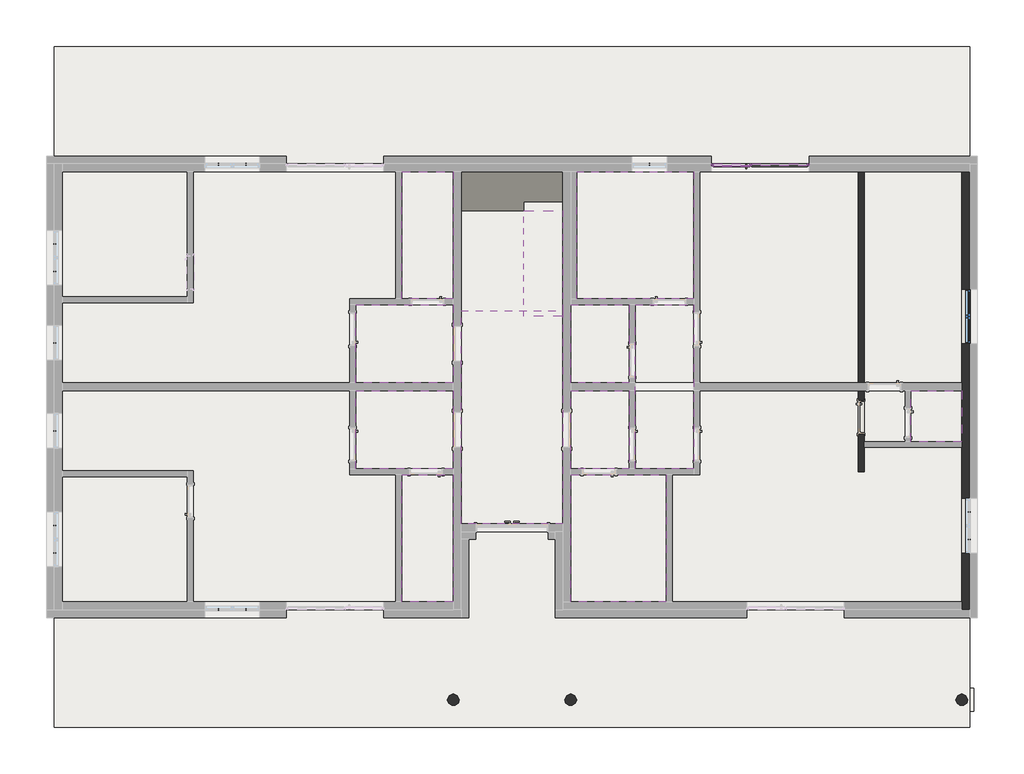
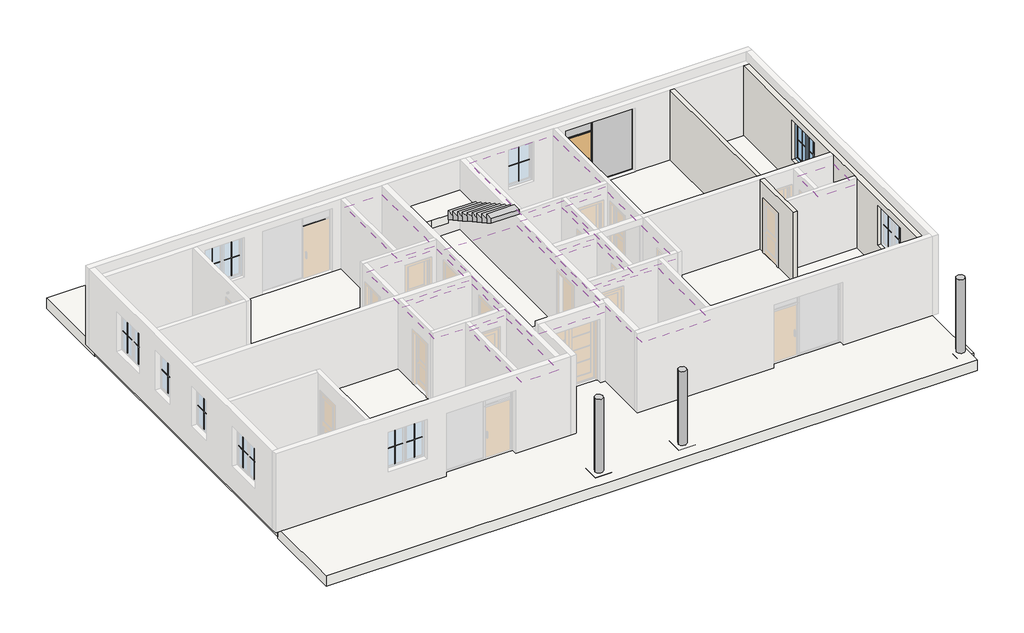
# One storey, part 3 of 3: 27 slabs, 15 proxies, 11 coverings, 10 members, 3 columns, 2 plates, 2 walls, 1 door, 2 other elements.
"""IFC4 building model written with IfcOpenShell, lengths in millimetres."""

import ifcopenshell
import ifcopenshell.guid

model = None  # the IFC model being written
_history = None  # IfcOwnerHistory: only IFC2X3 demands one
_inside = {}  # id of a spatial element -> (the spatial element, [elements in it])
_under = {}  # id of a project, library or spatial element -> (it, [spatial elements below it])
_declared = {}  # id of a project -> (the project, [libraries it declares])
_typed = {}  # id of a type object -> (the type object, [elements of that type])
_made_of = {}  # id of a material, layer set ... -> (it, [elements and type objects made of it])


def new_model(schema):
    """Start an empty IFC model of exactly this schema.

    Asked for "IFC4X3", IfcOpenShell would pick the latest addendum, in which some entities
    have other attributes; the version numbers below select the first issue.
    IFC2X3 requires an IfcOwnerHistory on every rooted entity: one is made here for all.
    """
    global model, _history
    if schema == "IFC4X3":
        model = ifcopenshell.file(schema_version=(4, 3, 0, 0))
    else:
        model = ifcopenshell.file(schema=schema)
    _inside.clear()
    _under.clear()
    _declared.clear()
    _typed.clear()
    _made_of.clear()
    _history = None
    if model.schema == "IFC2X3":
        org = make("IfcOrganization", Name="unknown")
        user = make(
            "IfcPersonAndOrganization",
            ThePerson=make("IfcPerson", FamilyName="unknown"),
            TheOrganization=org,
        )
        app = make(
            "IfcApplication",
            ApplicationDeveloper=org,
            Version="unknown",
            ApplicationFullName="unknown",
            ApplicationIdentifier="unknown",
        )
        _history = make(
            "IfcOwnerHistory",
            OwningUser=user,
            OwningApplication=app,
            ChangeAction="ADDED",
            CreationDate=0,
        )
    return model


def make(cls, **values):
    """One entity of the class cls with the attributes given. An attribute that is None is left unset."""
    return model.create_entity(
        cls, **{name: value for name, value in values.items() if value is not None}
    )


def rooted(cls, **values):
    """An entity with a GlobalId (a new one), such as an element, a storey or a relation."""
    return make(cls, GlobalId=ifcopenshell.guid.new(), OwnerHistory=_history, **values)


def si_unit(unit_type, name, prefix=None):
    """IfcSIUnit, for example si_unit("LENGTHUNIT", "METRE", prefix="MILLI")."""
    return make("IfcSIUnit", UnitType=unit_type, Prefix=prefix, Name=name)


def assignment(units):
    """IfcUnitAssignment: the units of a project."""
    return None if units is None else make("IfcUnitAssignment", Units=units)


def point(xyz):
    """IfcCartesianPoint."""
    return None if xyz is None else make("IfcCartesianPoint", Coordinates=xyz)


def direction(xyz):
    """IfcDirection."""
    return None if xyz is None else make("IfcDirection", DirectionRatios=xyz)


def frame(location, z_axis=None, x_axis=None):
    """IfcAxis2Placement3D, a coordinate frame: its origin and axes. An axis left out is left unset."""
    return make(
        "IfcAxis2Placement3D",
        Location=point(location),
        Axis=direction(z_axis),
        RefDirection=direction(x_axis),
    )


def frame_2d(location, x_axis=None):
    """IfcAxis2Placement2D, a coordinate frame in the plane: its origin and x axis."""
    return make(
        "IfcAxis2Placement2D", Location=point(location), RefDirection=direction(x_axis)
    )


def origin():
    """The frame at (0, 0, 0) with its axes left unset."""
    return frame((0.0, 0.0, 0.0))


def origin_with_axes():
    """The frame at (0, 0, 0) with the z axis (0, 0, 1) and the x axis (1, 0, 0) written out."""
    return frame((0.0, 0.0, 0.0), z_axis=(0.0, 0.0, 1.0), x_axis=(1.0, 0.0, 0.0))


def origin_2d():
    """The frame at (0, 0) in the plane with its x axis left unset."""
    return frame_2d((0.0, 0.0))


def place(relative_to, where):
    """IfcLocalPlacement: puts the frame where relative to a parent placement (None: the world)."""
    return make(
        "IfcLocalPlacement", PlacementRelTo=relative_to, RelativePlacement=where
    )


def context(
    kind, dimensions, precision=None, world=None, true_north=None, identifier=None
):
    """IfcGeometricRepresentationContext, for example the 3D "Model" context."""
    return make(
        "IfcGeometricRepresentationContext",
        ContextIdentifier=identifier,
        ContextType=kind,
        CoordinateSpaceDimension=dimensions,
        Precision=precision,
        WorldCoordinateSystem=world,
        TrueNorth=true_north,
    )


def project(units=None, contexts=None):
    """IfcProject with its units and contexts."""
    return rooted(
        "IfcProject",
        Name="project",
        RepresentationContexts=contexts,
        UnitsInContext=assignment(units),
    )


def spatial(cls, under=None, at=None, **own):
    """A site, building, storey or space (cls), placed at a placement, below another one or the project."""
    s = rooted(cls, ObjectPlacement=at, **own)
    if under is not None:
        _under.setdefault(under.id(), (under, []))[1].append(s)
    return s


def polyline(points):
    """IfcPolyline through the points."""
    return make("IfcPolyline", Points=[point(p) for p in points])


def circle_curve(where, radius):
    """IfcCircle in the frame where."""
    return make("IfcCircle", Position=where, Radius=radius)


def trimmed(basis, trim1, trim2, sense, master):
    """IfcTrimmedCurve: the piece of a basis curve between two trims."""
    return make(
        "IfcTrimmedCurve",
        BasisCurve=basis,
        Trim1=trim1,
        Trim2=trim2,
        SenseAgreement=sense,
        MasterRepresentation=master,
    )


def segment(curve, same_sense, transition):
    """IfcCompositeCurveSegment."""
    return make(
        "IfcCompositeCurveSegment",
        Transition=transition,
        SameSense=same_sense,
        ParentCurve=curve,
    )


def composite_curve(segments, self_intersect=None):
    """IfcCompositeCurve: segments joined end to end."""
    return make("IfcCompositeCurve", Segments=segments, SelfIntersect=self_intersect)


def outline(outer, holes=None, kind="AREA"):
    """IfcArbitraryClosedProfileDef: a profile drawn as a closed curve; with holes, ...WithVoids."""
    if holes is None:
        return make("IfcArbitraryClosedProfileDef", ProfileType=kind, OuterCurve=outer)
    return make(
        "IfcArbitraryProfileDefWithVoids",
        ProfileType=kind,
        OuterCurve=outer,
        InnerCurves=holes,
    )


def extrude(swept, where, along, depth):
    """IfcExtrudedAreaSolid: the profile swept, set in the frame where, extruded along a direction by depth."""
    return make(
        "IfcExtrudedAreaSolid",
        SweptArea=swept,
        Position=where,
        ExtrudedDirection=direction(along),
        Depth=depth,
    )


def faces_of(points, faces, orient=None, outer=None):
    """IfcFace entities. A face is a list of loops; a loop is a list of indices into points, from 0.

    orient and outer hold one flag for each loop. By default every Orientation is true, the
    first loop of a face is its IfcFaceOuterBound and the others are IfcFaceBound.
    """
    made = []
    for i, loops in enumerate(faces):
        bounds = []
        for j, loop in enumerate(loops):
            is_outer = j == 0 if outer is None else outer[i][j]
            bounds.append(
                make(
                    "IfcFaceOuterBound" if is_outer else "IfcFaceBound",
                    Bound=make("IfcPolyLoop", Polygon=[points[k] for k in loop]),
                    Orientation=True if orient is None else orient[i][j],
                )
            )
        made.append(make("IfcFace", Bounds=bounds))
    return made


def faceted_brep(points, faces, orient=None, outer=None, voids=None):
    """IfcFacetedBrep: a solid bounded by flat faces; with voids (closed shells), ...WithVoids."""
    shared = [point(p) for p in points]
    hull = make("IfcClosedShell", CfsFaces=faces_of(shared, faces, orient, outer))
    if voids is None:
        return make("IfcFacetedBrep", Outer=hull)
    return make(
        "IfcFacetedBrepWithVoids",
        Outer=hull,
        Voids=[
            make(cls, CfsFaces=faces_of(shared, fs, o, b)) for cls, fs, o, b in voids
        ],
    )


def shape(context_of_items, identifier, shape_type, items):
    """IfcShapeRepresentation: the items that make up one representation, for example the "Body"."""
    return make(
        "IfcShapeRepresentation",
        ContextOfItems=context_of_items,
        RepresentationIdentifier=identifier,
        RepresentationType=shape_type,
        Items=items,
    )


def source(mapping_origin, context_of_items, identifier, shape_type, items):
    """IfcRepresentationMap: a shape defined once, which mapped items show again and again."""
    return make(
        "IfcRepresentationMap",
        MappingOrigin=mapping_origin,
        MappedRepresentation=shape(context_of_items, identifier, shape_type, items),
    )


def transform(
    local_origin,
    x_axis=None,
    y_axis=None,
    z_axis=None,
    scale=None,
    scale2=None,
    scale3=None,
    uniform=True,
):
    """IfcCartesianTransformationOperator3D, or its non-uniform kind. x_axis, y_axis, z_axis: its Axis1, 2, 3."""
    if uniform:
        return make(
            "IfcCartesianTransformationOperator3D",
            Axis1=direction(x_axis),
            Axis2=direction(y_axis),
            LocalOrigin=point(local_origin),
            Scale=scale,
            Axis3=direction(z_axis),
        )
    return make(
        "IfcCartesianTransformationOperator3DnonUniform",
        Axis1=direction(x_axis),
        Axis2=direction(y_axis),
        LocalOrigin=point(local_origin),
        Scale=scale,
        Axis3=direction(z_axis),
        Scale2=scale2,
        Scale3=scale3,
    )


def mapped(mapping_source, mapping_target):
    """IfcMappedItem: shows the shape of a source again, moved by a transform."""
    return make(
        "IfcMappedItem", MappingSource=mapping_source, MappingTarget=mapping_target
    )


def made_of(thing, what):
    """Note that an element or type object is made of a material, layer set ...; save() writes the relation."""
    if what is not None:
        _made_of.setdefault(what.id(), (what, []))[1].append(thing)
    return thing


def element(
    cls,
    number,
    at=None,
    inside=None,
    cuts=None,
    type_object=None,
    material=None,
    context=None,
    identifier="Body",
    shape_type=None,
    held_by="IfcProductDefinitionShape",
    body=None,
    shapes=None,
    **own,
):
    """One element of the class cls, such as IfcWall. Its Tag is "e" and its number.

    at: its placement. inside: the storey or other place that contains it. cuts: it is an
    opening in that element (IfcRelVoidsElement). A single representation is given by context,
    identifier, shape_type and body (its items); several are given by shapes. held_by: the class
    of the entity that holds the representations. save() writes the other relations.
    """
    e = rooted(cls, Tag="e%d" % number, ObjectPlacement=at, **own)
    if body is not None:
        shapes = [shape(context, identifier, shape_type, body)]
    if shapes is not None:
        e.Representation = make(held_by, Representations=shapes)
    if inside is not None:
        _inside.setdefault(inside.id(), (inside, []))[1].append(e)
    if cuts is not None:
        rooted(
            "IfcRelVoidsElement", RelatingBuildingElement=cuts, RelatedOpeningElement=e
        )
    if type_object is not None:
        _typed.setdefault(type_object.id(), (type_object, []))[1].append(e)
    return made_of(e, material)


def aggregate(whole, parts):
    """IfcRelAggregates: a whole, such as a stair, and the parts it consists of."""
    return rooted("IfcRelAggregates", RelatingObject=whole, RelatedObjects=parts)


def save(model, path):
    """Write the relations noted so far, then the file.

    IfcRelAggregates (storeys below a building ...), IfcRelContainedInSpatialStructure (elements
    in a storey), IfcRelDefinesByType, IfcRelAssociatesMaterial and IfcRelDeclares: one each for
    every whole, place, type object, material and project.
    """
    for whole, parts in _under.values():
        aggregate(whole, parts)
    for where, things in _inside.values():
        rooted(
            "IfcRelContainedInSpatialStructure",
            RelatedElements=things,
            RelatingStructure=where,
        )
    for kind, things in _typed.values():
        rooted("IfcRelDefinesByType", RelatedObjects=things, RelatingType=kind)
    for what, things in _made_of.values():
        rooted("IfcRelAssociatesMaterial", RelatedObjects=things, RelatingMaterial=what)
    for by, libraries in _declared.values():
        rooted("IfcRelDeclares", RelatingContext=by, RelatedDefinitions=libraries)
    model.write(path)


def generic_models_71f8651e(model_context):
    return source(origin(), model_context, "Body", "SweptSolid", [
        extrude(outline(polyline([(686.5, -6.35), (686.5, -281.7375), (673.8, -281.7375), (673.8, -6.35), (0.0, -6.35), (0.0, 6.35), (673.8, 6.35), (673.8, 281.7375), (686.5, 281.7375), (686.5, 6.35), (1360.3, 6.35), (1360.3, -6.35), (686.5, -6.35)])), frame((0.0, 9.525, 0.0), z_axis=(0.0, 1.0, 0.0), x_axis=(0.0, 0.0, 1.0)), (0.0, 0.0, 1.0), 12.7),
        extrude(outline(polyline([(686.5, -6.35), (686.5, -281.7375), (673.8, -281.7375), (673.8, -6.35), (0.0, -6.35), (0.0, 6.35), (673.8, 6.35), (673.8, 281.7375), (686.5, 281.7375), (686.5, 6.35), (1360.3, 6.35), (1360.3, -6.35), (686.5, -6.35)])), frame((0.0, -22.225, 0.0), z_axis=(0.0, 1.0, 0.0), x_axis=(0.0, 0.0, 1.0)), (0.0, 0.0, 1.0), 12.7),
    ])


def generic_models_53b518fb(model_context):
    return source(origin(), model_context, "Body", "SweptSolid", [
        extrude(outline(polyline([(686.5, -6.35), (686.5, -281.7375), (673.8, -281.7375), (673.8, -6.35), (0.0, -6.35), (0.0, 6.35), (673.8, 6.35), (673.8, 281.7375), (686.5, 281.7375), (686.5, 6.35), (1360.3, 6.35), (1360.3, -6.35), (686.5, -6.35)])), frame((0.0, -22.225, 0.0), z_axis=(0.0, 1.0, 0.0), x_axis=(0.0, 0.0, 1.0)), (0.0, 0.0, 1.0), 12.7),
        extrude(outline(polyline([(686.5, -6.35), (686.5, -281.7375), (673.8, -281.7375), (673.8, -6.35), (0.0, -6.35), (0.0, 6.35), (673.8, 6.35), (673.8, 281.7375), (686.5, 281.7375), (686.5, 6.35), (1360.3, 6.35), (1360.3, -6.35), (686.5, -6.35)])), frame((0.0, 9.525, 0.0), z_axis=(0.0, 1.0, 0.0), x_axis=(0.0, 0.0, 1.0)), (0.0, 0.0, 1.0), 12.7),
    ])


def generic_models_afe3c14d(model_context):
    return source(origin(), model_context, "Body", "SweptSolid", [
        extrude(outline(polyline([(686.5, -6.35), (686.5, -380.15), (673.8, -380.15), (673.8, -6.35), (0.0, -6.35), (0.0, 6.35), (673.8, 6.35), (673.8, 380.15), (686.5, 380.15), (686.5, 6.35), (1360.3, 6.35), (1360.3, -6.35), (686.5, -6.35)])), frame((0.0, -22.225, 0.0), z_axis=(0.0, 1.0, 0.0), x_axis=(0.0, 0.0, 1.0)), (0.0, 0.0, 1.0), 12.7),
        extrude(outline(polyline([(686.5, -6.35), (686.5, -380.15), (673.8, -380.15), (673.8, -6.35), (0.0, -6.35), (0.0, 6.35), (673.8, 6.35), (673.8, 380.15), (686.5, 380.15), (686.5, 6.35), (1360.3, 6.35), (1360.3, -6.35), (686.5, -6.35)])), frame((0.0, 9.525, 0.0), z_axis=(0.0, 1.0, 0.0), x_axis=(0.0, 0.0, 1.0)), (0.0, 0.0, 1.0), 12.7),
    ])


def generic_models_a6b4e963(model_context):
    return source(origin(), model_context, "Body", "SweptSolid", [
        extrude(outline(polyline([(686.5, -6.35), (686.5, -380.15), (673.8, -380.15), (673.8, -6.35), (0.0, -6.35), (0.0, 6.35), (673.8, 6.35), (673.8, 380.15), (686.5, 380.15), (686.5, 6.35), (1360.3, 6.35), (1360.3, -6.35), (686.5, -6.35)])), frame((0.0, 9.525, 0.0), z_axis=(0.0, 1.0, 0.0), x_axis=(0.0, 0.0, 1.0)), (0.0, 0.0, 1.0), 12.7),
        extrude(outline(polyline([(686.5, -6.35), (686.5, -380.15), (673.8, -380.15), (673.8, -6.35), (0.0, -6.35), (0.0, 6.35), (673.8, 6.35), (673.8, 380.15), (686.5, 380.15), (686.5, 6.35), (1360.3, 6.35), (1360.3, -6.35), (686.5, -6.35)])), frame((0.0, -22.225, 0.0), z_axis=(0.0, 1.0, 0.0), x_axis=(0.0, 0.0, 1.0)), (0.0, 0.0, 1.0), 12.7),
    ])


def column_300mm_4ed90d00(model_context):
    return source(origin(), model_context, "Body", "SweptSolid", [
        extrude(outline(composite_curve([segment(trimmed(circle_curve(origin_2d(), 150.0), [point((-150.0, 0.0))], [point((150.0, 0.0))], False, "CARTESIAN"), True, "CONTINUOUS"), segment(trimmed(circle_curve(origin_2d(), 150.0), [point((150.0, 0.0))], [point((-150.0, 0.0))], False, "CARTESIAN"), True, "CONTINUOUS")], self_intersect=False)), origin_with_axes(), (0.0, 0.0, 1.0), 2800.0),
    ])


def door_21d3b074(model_context):
    return source(origin(), model_context, "Body", "SweptSolid", [
        extrude(outline(polyline([(462.5, 50.8), (462.5, 38.1), (-462.5, 38.1), (-462.5, 50.8), (462.5, 50.8)])), origin_with_axes(), (0.0, 0.0, 1.0), 1975.0),
        extrude(outline(polyline([(-386.3, 101.6), (-360.9, 101.6), (-360.9, 50.8), (-386.3, 50.8), (-386.3, 101.6)])), frame((0.0, 0.0, 762.0), z_axis=(0.0, 0.0, 1.0), x_axis=(1.0, 0.0, 0.0)), (0.0, 0.0, 1.0), 228.6),
        extrude(outline(polyline([(-360.9, -12.7), (-386.3, -12.7), (-386.3, 38.1), (-360.9, 38.1), (-360.9, -12.7)])), frame((0.0, 0.0, 762.0), z_axis=(0.0, 0.0, 1.0), x_axis=(1.0, 0.0, 0.0)), (0.0, 0.0, 1.0), 228.6),
    ])


def member_50x50_mm_0b25df5f(model_context):
    return source(origin(), model_context, "Body", "SweptSolid", [
        extrude(outline(polyline([(0.0, 25.0), (0.0, -25.0), (-50.0, -25.0), (-50.0, 25.0), (0.0, 25.0)])), frame((0.0, 0.0, -1425.0), z_axis=(0.0, 0.0, 1.0), x_axis=(1.0, 0.0, 0.0)), (0.0, 0.0, 1.0), 1425.0),
    ])


def member_50x50_mm_3bf2a5da(model_context):
    return source(origin(), model_context, "Body", "SweptSolid", [
        extrude(outline(polyline([(25.0, 25.0), (25.0, -25.0), (-25.0, -25.0), (-25.0, 25.0), (25.0, 25.0)])), frame((0.0, 0.0, -2000.0), z_axis=(0.0, 0.0, 1.0), x_axis=(1.0, 0.0, 0.0)), (0.0, 0.0, 1.0), 2000.0),
    ])


def member_50x50_mm_d57dae31(model_context):
    return source(origin(), model_context, "Body", "SweptSolid", [
        extrude(outline(polyline([(25.0, 25.0), (25.0, -25.0), (-25.0, -25.0), (-25.0, 25.0), (25.0, 25.0)])), frame((0.0, 0.0, -925.0), z_axis=(0.0, 0.0, 1.0), x_axis=(1.0, 0.0, 0.0)), (0.0, 0.0, 1.0), 925.0),
    ])


def member_50x50_mm_7f53e2b4(model_context):
    return source(origin(), model_context, "Body", "SweptSolid", [
        extrude(outline(polyline([(0.0, 25.0), (0.0, -25.0), (-50.0, -25.0), (-50.0, 25.0), (0.0, 25.0)])), frame((0.0, 0.0, -925.0), z_axis=(0.0, 0.0, 1.0), x_axis=(1.0, 0.0, 0.0)), (0.0, 0.0, 1.0), 925.0),
    ])


def member_50x50_mm_58209b6d(model_context):
    return source(origin(), model_context, "Body", "SweptSolid", [
        extrude(outline(polyline([(25.0, 25.0), (25.0, -25.0), (-25.0, -25.0), (-25.0, 25.0), (25.0, 25.0)])), frame((0.0, 0.0, -400.0), z_axis=(0.0, 0.0, 1.0), x_axis=(1.0, 0.0, 0.0)), (0.0, 0.0, 1.0), 400.0),
    ])


def member_50x50_mm_0f4eb3cd(model_context):
    return source(origin(), model_context, "Body", "SweptSolid", [
        extrude(outline(polyline([(0.0, 25.0), (0.0, -25.0), (-50.0, -25.0), (-50.0, 25.0), (0.0, 25.0)])), frame((0.0, 0.0, -400.0), z_axis=(0.0, 0.0, 1.0), x_axis=(1.0, 0.0, 0.0)), (0.0, 0.0, 1.0), 400.0),
    ])


def member_50x50_mm_521fa47b(model_context):
    return source(origin(), model_context, "Body", "SweptSolid", [
        extrude(outline(polyline([(0.0, 25.0), (0.0, -25.0), (-50.0, -25.0), (-50.0, 25.0), (0.0, 25.0)])), frame((0.0, 0.0, -2000.0), z_axis=(0.0, 0.0, 1.0), x_axis=(1.0, 0.0, 0.0)), (0.0, 0.0, 1.0), 2000.0),
    ])


def plate_9c89f185(model_context):
    return source(origin(), model_context, "Body", "SweptSolid", [
        extrude(outline(polyline([(0.0, -712.5), (0.0, 712.5), (1950.0, 712.5), (2300.0, 712.5), (2300.0, -712.5), (1950.0, -712.5), (0.0, -712.5)])), frame((0.0, -49.5, 0.0), z_axis=(0.0, 1.0, 0.0), x_axis=(0.0, 0.0, 1.0)), (0.0, 0.0, 1.0), 25.0),
    ])


def plate_e159d5d1(model_context):
    return source(origin(), model_context, "Body", "SweptSolid", [
        extrude(outline(polyline([(462.5, -49.5), (-462.5, -49.5), (-462.5, -24.5), (462.5, -24.5), (462.5, -49.5)])), origin_with_axes(), (0.0, 0.0, 1.0), 325.0),
    ])


def slab_600x600x600_mm_9cc2939c(model_context):
    return source(origin(), model_context, "Body", "SweptSolid", [
        extrude(outline(polyline([(300.0, 300.0), (300.0, -300.0), (-300.0, -300.0), (-300.0, 300.0), (300.0, 300.0)])), frame((0.0, 0.0, -600.0), z_axis=(0.0, 0.0, 1.0), x_axis=(1.0, 0.0, 0.0)), (0.0, 0.0, 1.0), 600.0),
    ])


def window_1400_x_1500mm_e7e683e0(model_context):
    return source(origin(), model_context, "Body", "SolidModel", [
        faceted_brep([(668.25, -68.25, 2368.25), (-668.25, -68.25, 2368.25), (-668.25, -4.75, 2368.25), (668.25, -4.75, 2368.25), (687.3, -119.05, 2387.3), (-687.3, -119.05, 2387.3), (-687.3, -68.25, 2387.3), (687.3, -68.25, 2387.3), (700.0, -4.75, 2400.0), (-700.0, -4.75, 2400.0), (-700.0, -119.05, 2400.0), (700.0, -119.05, 2400.0), (-668.25, -68.25, 931.75), (-668.25, -4.75, 931.75), (-687.3, -119.05, 912.7), (-687.3, -68.25, 912.7), (-700.0, -4.75, 900.0), (-700.0, -119.05, 900.0), (668.25, -68.25, 931.75), (668.25, -4.75, 931.75), (687.3, -119.05, 912.7), (687.3, -68.25, 912.7), (700.0, -4.75, 900.0), (700.0, -119.05, 900.0)], [[[0, 1, 2, 3]], [[4, 5, 6, 7]], [[8, 9, 10, 11]], [[1, 12, 13, 2]], [[5, 14, 15, 6]], [[9, 16, 17, 10]], [[12, 18, 19, 13]], [[14, 20, 21, 15]], [[16, 22, 23, 17]], [[9, 8, 22, 16], [3, 2, 13, 19]], [[18, 0, 3, 19]], [[7, 6, 15, 21], [1, 0, 18, 12]], [[20, 4, 7, 21]], [[22, 8, 11, 23]], [[11, 10, 17, 23], [5, 4, 20, 14]]]),
        extrude(outline(polyline([(912.7, 9.525), (912.7, 687.3), (2387.3, 687.3), (2387.3, 9.525), (912.7, 9.525)]), holes=[polyline([(969.85, 630.15), (969.85, 66.675), (2330.15, 66.675), (2330.15, 630.15), (969.85, 630.15)])]), frame((0.0, -112.7, 0.0), z_axis=(0.0, 1.0, 0.0), x_axis=(0.0, 0.0, 1.0)), (0.0, 0.0, 1.0), 44.45),
        extrude(outline(polyline([(2387.3, -9.525), (2387.3, -687.3), (912.7, -687.3), (912.7, -9.525), (2387.3, -9.525)]), holes=[polyline([(2330.15, -630.15), (2330.15, -66.675), (969.85, -66.675), (969.85, -630.15), (2330.15, -630.15)])]), frame((0.0, -112.7, 0.0), z_axis=(0.0, 1.0, 0.0), x_axis=(0.0, 0.0, 1.0)), (0.0, 0.0, 1.0), 44.45),
        extrude(outline(polyline([(630.15, -100.0), (66.675, -100.0), (66.675, -93.65), (630.15, -93.65), (630.15, -100.0)])), frame((0.0, 0.0, 969.85), z_axis=(0.0, 0.0, 1.0), x_axis=(1.0, 0.0, 0.0)), (0.0, 0.0, 1.0), 1360.3),
        extrude(outline(polyline([(66.675, -80.95), (630.15, -80.95), (630.15, -87.3), (66.675, -87.3), (66.675, -80.95)])), frame((0.0, 0.0, 969.85), z_axis=(0.0, 0.0, 1.0), x_axis=(1.0, 0.0, 0.0)), (0.0, 0.0, 1.0), 1360.3),
        extrude(outline(polyline([(-66.675, -100.0), (-630.15, -100.0), (-630.15, -93.65), (-66.675, -93.65), (-66.675, -100.0)])), frame((0.0, 0.0, 969.85), z_axis=(0.0, 0.0, 1.0), x_axis=(1.0, 0.0, 0.0)), (0.0, 0.0, 1.0), 1360.3),
        extrude(outline(polyline([(-630.15, -80.95), (-66.675, -80.95), (-66.675, -87.3), (-630.15, -87.3), (-630.15, -80.95)])), frame((0.0, 0.0, 969.85), z_axis=(0.0, 0.0, 1.0), x_axis=(1.0, 0.0, 0.0)), (0.0, 0.0, 1.0), 1360.3),
        faceted_brep([(9.525, -119.05, 2387.3), (9.525, -68.25, 2387.3), (-9.525, -68.25, 2387.3), (-9.525, -119.05, 2387.3), (9.525, -119.05, 912.7), (-9.525, -119.05, 912.7), (-9.525, -68.25, 912.7), (9.525, -68.25, 912.7), (-9.525, -68.25, 2368.25), (-9.525, -68.25, 931.75), (-30.1625, -68.25, 2368.25), (-30.1625, -68.25, 931.75), (-30.1625, -4.75, 2368.25), (-30.1625, -4.75, 931.75), (30.1625, -4.75, 2368.25), (30.1625, -4.75, 931.75), (30.1625, -68.25, 2368.25), (30.1625, -68.25, 931.75), (9.525, -68.25, 2368.25), (9.525, -68.25, 931.75)], [[[0, 1, 2, 3]], [[4, 5, 6, 7]], [[3, 5, 4, 0]], [[2, 8, 9, 6, 5, 3]], [[8, 10, 11, 9]], [[10, 12, 13, 11]], [[12, 14, 15, 13]], [[14, 16, 17, 15]], [[16, 18, 19, 17]], [[0, 4, 7, 19, 18, 1]], [[8, 2, 1, 18]], [[19, 7, 6, 9]], [[9, 11, 13, 15, 17, 19]], [[18, 16, 14, 12, 10, 8]]]),
    ])


model = new_model("IFC4")

# Units and contexts
model_context = context("Model", 3, world=origin())
ifc_project = project(units=[si_unit("LENGTHUNIT", "METRE", prefix="MILLI")], contexts=[model_context])

# Site, building, storey
site = spatial("IfcSite", under=ifc_project)
building = spatial("IfcBuilding", under=site)
storey = spatial("IfcBuildingStorey", under=building, Name="Podlaží 1", Elevation=0.0)

# Proxies
placement = place(None, origin())
generic_models_shape = generic_models_71f8651e(model_context)
element("IfcBuildingElementProxy", 1, Name="M_Vzor mezilehlého svislého vlysu_2x2 : M_Vzor mezilehlého svislého vlysu_2x2", ObjectType="M_Vzor mezilehlého svislého vlysu_2x2 : M_Vzor mezilehlého svislého vlysu_2x2", at=placement, inside=storey, context=model_context, shape_type="MappedRepresentation", body=[
    mapped(generic_models_shape, transform((4698.4125, 2309.525, 969.85), x_axis=(-1.0, 0.0, 0.0), y_axis=(0.0, -1.0, 0.0), z_axis=(0.0, 0.0, 1.0))),
])
element("IfcBuildingElementProxy", 2, Name="M_Vzor mezilehlého svislého vlysu_2x2 : M_Vzor mezilehlého svislého vlysu_2x2", ObjectType="M_Vzor mezilehlého svislého vlysu_2x2 : M_Vzor mezilehlého svislého vlysu_2x2", at=placement, inside=storey, context=model_context, shape_type="MappedRepresentation", body=[
    mapped(generic_models_shape, transform((-190.475, 3751.5875, 969.85), x_axis=(0.0, 1.0, 0.0), y_axis=(-1.0, 0.0, 0.0), z_axis=(0.0, 0.0, 1.0))),
])
element("IfcBuildingElementProxy", 3, Name="M_Vzor mezilehlého svislého vlysu_2x2 : M_Vzor mezilehlého svislého vlysu_2x2", ObjectType="M_Vzor mezilehlého svislého vlysu_2x2 : M_Vzor mezilehlého svislého vlysu_2x2", at=placement, inside=storey, context=model_context, shape_type="MappedRepresentation", body=[
    mapped(generic_models_shape, transform((-190.475, 10951.5875, 969.85), x_axis=(0.0, 1.0, 0.0), y_axis=(-1.0, 0.0, 0.0), z_axis=(0.0, 0.0, 1.0))),
])
element("IfcBuildingElementProxy", 4, Name="M_Vzor mezilehlého svislého vlysu_2x2 : M_Vzor mezilehlého svislého vlysu_2x2", ObjectType="M_Vzor mezilehlého svislého vlysu_2x2 : M_Vzor mezilehlého svislého vlysu_2x2", at=placement, inside=storey, context=model_context, shape_type="MappedRepresentation", body=[
    mapped(generic_models_shape, transform((4001.5875, 13690.475, 969.85), x_axis=(1.0, 0.0, 0.0), y_axis=(0.0, 1.0, 0.0), z_axis=(0.0, 0.0, 1.0))),
])
element("IfcBuildingElementProxy", 5, Name="M_Vzor mezilehlého svislého vlysu_2x2 : M_Vzor mezilehlého svislého vlysu_2x2", ObjectType="M_Vzor mezilehlého svislého vlysu_2x2 : M_Vzor mezilehlého svislého vlysu_2x2", at=placement, inside=storey, context=model_context, shape_type="MappedRepresentation", body=[
    mapped(generic_models_shape, transform((23190.475, 10148.4125, 969.85), x_axis=(0.0, -1.0, 0.0), y_axis=(1.0, 0.0, 0.0), z_axis=(0.0, 0.0, 1.0))),
])
element("IfcBuildingElementProxy", 6, Name="M_Vzor mezilehlého svislého vlysu_2x2 : M_Vzor mezilehlého svislého vlysu_2x2", ObjectType="M_Vzor mezilehlého svislého vlysu_2x2 : M_Vzor mezilehlého svislého vlysu_2x2", at=placement, inside=storey, context=model_context, shape_type="MappedRepresentation", body=[
    mapped(generic_models_shape, transform((23190.475, 4798.4125, 969.85), x_axis=(0.0, -1.0, 0.0), y_axis=(1.0, 0.0, 0.0), z_axis=(0.0, 0.0, 1.0))),
])
generic_models_2_shape = generic_models_53b518fb(model_context)
element("IfcBuildingElementProxy", 7, Name="M_Vzor mezilehlého svislého vlysu_2x2 : M_Vzor mezilehlého svislého vlysu_2x2", ObjectType="M_Vzor mezilehlého svislého vlysu_2x2 : M_Vzor mezilehlého svislého vlysu_2x2", at=placement, inside=storey, context=model_context, shape_type="MappedRepresentation", body=[
    mapped(generic_models_2_shape, transform((4001.5875, 2309.525, 969.85), x_axis=(1.0, 0.0, 0.0), y_axis=(0.0, 1.0, 0.0), z_axis=(0.0, 0.0, 1.0))),
])
element("IfcBuildingElementProxy", 8, Name="M_Vzor mezilehlého svislého vlysu_2x2 : M_Vzor mezilehlého svislého vlysu_2x2", ObjectType="M_Vzor mezilehlého svislého vlysu_2x2 : M_Vzor mezilehlého svislého vlysu_2x2", at=placement, inside=storey, context=model_context, shape_type="MappedRepresentation", body=[
    mapped(generic_models_2_shape, transform((-190.475, 4448.4125, 969.85), x_axis=(0.0, -1.0, 0.0), y_axis=(1.0, 0.0, 0.0), z_axis=(0.0, 0.0, 1.0))),
])
element("IfcBuildingElementProxy", 9, Name="M_Vzor mezilehlého svislého vlysu_2x2 : M_Vzor mezilehlého svislého vlysu_2x2", ObjectType="M_Vzor mezilehlého svislého vlysu_2x2 : M_Vzor mezilehlého svislého vlysu_2x2", at=placement, inside=storey, context=model_context, shape_type="MappedRepresentation", body=[
    mapped(generic_models_2_shape, transform((-190.475, 11648.4125, 969.85), x_axis=(0.0, -1.0, 0.0), y_axis=(1.0, 0.0, 0.0), z_axis=(0.0, 0.0, 1.0))),
])
element("IfcBuildingElementProxy", 10, Name="M_Vzor mezilehlého svislého vlysu_2x2 : M_Vzor mezilehlého svislého vlysu_2x2", ObjectType="M_Vzor mezilehlého svislého vlysu_2x2 : M_Vzor mezilehlého svislého vlysu_2x2", at=placement, inside=storey, context=model_context, shape_type="MappedRepresentation", body=[
    mapped(generic_models_2_shape, transform((4698.4125, 13690.475, 969.85), x_axis=(-1.0, 0.0, 0.0), y_axis=(0.0, -1.0, 0.0), z_axis=(0.0, 0.0, 1.0))),
])
element("IfcBuildingElementProxy", 11, Name="M_Vzor mezilehlého svislého vlysu_2x2 : M_Vzor mezilehlého svislého vlysu_2x2", ObjectType="M_Vzor mezilehlého svislého vlysu_2x2 : M_Vzor mezilehlého svislého vlysu_2x2", at=placement, inside=storey, context=model_context, shape_type="MappedRepresentation", body=[
    mapped(generic_models_2_shape, transform((23190.475, 9451.5875, 969.85), x_axis=(0.0, 1.0, 0.0), y_axis=(-1.0, 0.0, 0.0), z_axis=(0.0, 0.0, 1.0))),
])
element("IfcBuildingElementProxy", 12, Name="M_Vzor mezilehlého svislého vlysu_2x2 : M_Vzor mezilehlého svislého vlysu_2x2", ObjectType="M_Vzor mezilehlého svislého vlysu_2x2 : M_Vzor mezilehlého svislého vlysu_2x2", at=placement, inside=storey, context=model_context, shape_type="MappedRepresentation", body=[
    mapped(generic_models_2_shape, transform((23190.475, 4101.5875, 969.85), x_axis=(0.0, 1.0, 0.0), y_axis=(-1.0, 0.0, 0.0), z_axis=(0.0, 0.0, 1.0))),
])
generic_models_3_shape = generic_models_afe3c14d(model_context)
element("IfcBuildingElementProxy", 13, Name="M_Vzor mezilehlého svislého vlysu_2x2 : M_Vzor mezilehlého svislého vlysu_2x2", ObjectType="M_Vzor mezilehlého svislého vlysu_2x2 : M_Vzor mezilehlého svislého vlysu_2x2", at=placement, inside=storey, context=model_context, shape_type="MappedRepresentation", body=[
    mapped(generic_models_3_shape, transform((-190.475, 6875.0, 969.85), x_axis=(0.0, -1.0, 0.0), y_axis=(1.0, 0.0, 0.0), z_axis=(0.0, 0.0, 1.0))),
])
element("IfcBuildingElementProxy", 14, Name="M_Vzor mezilehlého svislého vlysu_2x2 : M_Vzor mezilehlého svislého vlysu_2x2", ObjectType="M_Vzor mezilehlého svislého vlysu_2x2 : M_Vzor mezilehlého svislého vlysu_2x2", at=placement, inside=storey, context=model_context, shape_type="MappedRepresentation", body=[
    mapped(generic_models_3_shape, transform((-190.475, 9125.0, 969.85), x_axis=(0.0, -1.0, 0.0), y_axis=(1.0, 0.0, 0.0), z_axis=(0.0, 0.0, 1.0))),
])
generic_models_4_shape = generic_models_a6b4e963(model_context)
element("IfcBuildingElementProxy", 15, Name="M_Vzor mezilehlého svislého vlysu_2x2 : M_Vzor mezilehlého svislého vlysu_2x2", ObjectType="M_Vzor mezilehlého svislého vlysu_2x2 : M_Vzor mezilehlého svislého vlysu_2x2", at=placement, inside=storey, context=model_context, shape_type="MappedRepresentation", body=[
    mapped(generic_models_4_shape, transform((15015.0, 13690.475, 969.85), x_axis=(1.0, 0.0, 0.0), y_axis=(0.0, 1.0, 0.0), z_axis=(0.0, 0.0, 1.0))),
])

# Columns
column_300mm_shape = column_300mm_4ed90d00(model_context)
element("IfcColumn", 16, ObjectType="M_Betonový kulatý sloup : 300mm", at=placement, inside=storey, context=model_context, shape_type="MappedRepresentation", body=[
    mapped(column_300mm_shape, transform((23000.0, 0.0, 0.0), x_axis=(1.0, 0.0, 0.0), y_axis=(0.0, 1.0, 0.0), z_axis=(0.0, 0.0, 1.0))),
])
element("IfcColumn", 17, ObjectType="M_Betonový kulatý sloup : 300mm", at=placement, inside=storey, context=model_context, shape_type="MappedRepresentation", body=[
    mapped(column_300mm_shape, transform((13000.0, 0.0, 0.0), x_axis=(1.0, 0.0, 0.0), y_axis=(0.0, 1.0, 0.0), z_axis=(0.0, 0.0, 1.0))),
])
element("IfcColumn", 18, ObjectType="M_Betonový kulatý sloup : 300mm", at=placement, inside=storey, context=model_context, shape_type="MappedRepresentation", body=[
    mapped(column_300mm_shape, transform((10000.0, 0.0, 0.0), x_axis=(1.0, 0.0, 0.0), y_axis=(0.0, 1.0, 0.0), z_axis=(0.0, 0.0, 1.0))),
])

# Coverings
element("IfcCovering", 19, ObjectType="Mřížka 600 x 600mm", at=placement, inside=storey, context=model_context, shape_type="SweptSolid", body=[
    extrude(outline(polyline([(8675.0, 13500.0), (10000.0, 13500.0), (10000.0, 10250.0), (8675.0, 10250.0), (8675.0, 13500.0)])), frame((0.0, 0.0, 2300.0), z_axis=(0.0, 0.0, 1.0), x_axis=(1.0, 0.0, 0.0)), (0.0, 0.0, 1.0), 52.0),
])
element("IfcCovering", 20, ObjectType="Mřížka 600 x 600mm", at=placement, inside=storey, context=model_context, shape_type="SweptSolid", body=[
    extrude(outline(polyline([(7500.0, 10100.0), (10000.0, 10100.0), (10000.0, 8100.0), (7500.0, 8100.0), (7500.0, 10100.0)])), frame((0.0, 0.0, 2300.0), z_axis=(0.0, 0.0, 1.0), x_axis=(1.0, 0.0, 0.0)), (0.0, 0.0, 1.0), 52.0),
])
element("IfcCovering", 21, ObjectType="Mřížka 600 x 600mm", at=placement, inside=storey, context=model_context, shape_type="SweptSolid", body=[
    extrude(outline(polyline([(10000.0, 7900.0), (10000.0, 5900.0), (7500.0, 5900.0), (7500.0, 7900.0), (10000.0, 7900.0)])), frame((0.0, 0.0, 2300.0), z_axis=(0.0, 0.0, 1.0), x_axis=(1.0, 0.0, 0.0)), (0.0, 0.0, 1.0), 52.0),
])
element("IfcCovering", 22, ObjectType="Mřížka 600 x 600mm", at=placement, inside=storey, context=model_context, shape_type="SweptSolid", body=[
    extrude(outline(polyline([(8675.0, 5750.0), (10000.0, 5750.0), (10000.0, 2500.0), (8675.0, 2500.0), (8675.0, 5750.0)])), frame((0.0, 0.0, 2300.0), z_axis=(0.0, 0.0, 1.0), x_axis=(1.0, 0.0, 0.0)), (0.0, 0.0, 1.0), 52.0),
])
element("IfcCovering", 23, ObjectType="SDK podhled plný", at=placement, inside=storey, context=model_context, shape_type="SweptSolid", body=[
    extrude(outline(polyline([(13150.0, 13500.0), (16150.0, 13500.0), (16150.0, 10250.0), (13150.0, 10250.0), (13150.0, 13500.0)])), frame((0.0, 0.0, 2400.0), z_axis=(0.0, 0.0, 1.0), x_axis=(1.0, 0.0, 0.0)), (0.0, 0.0, 1.0), 66.5),
])
element("IfcCovering", 24, ObjectType="Mřížka 600 x 600mm", at=placement, inside=storey, context=model_context, shape_type="SweptSolid", body=[
    extrude(outline(polyline([(14500.0, 8100.0), (13000.0, 8100.0), (13000.0, 10100.0), (14500.0, 10100.0), (14500.0, 8100.0)])), frame((0.0, 0.0, 2300.0), z_axis=(0.0, 0.0, 1.0), x_axis=(1.0, 0.0, 0.0)), (0.0, 0.0, 1.0), 52.0),
])
element("IfcCovering", 25, ObjectType="Mřížka 600 x 600mm", at=placement, inside=storey, context=model_context, shape_type="SweptSolid", body=[
    extrude(outline(polyline([(14500.0, 5900.0), (13000.0, 5900.0), (13000.0, 7900.0), (14500.0, 7900.0), (14500.0, 5900.0)])), frame((0.0, 0.0, 2300.0), z_axis=(0.0, 0.0, 1.0), x_axis=(1.0, 0.0, 0.0)), (0.0, 0.0, 1.0), 52.0),
])
element("IfcCovering", 26, ObjectType="Mřížka 600 x 600mm", at=placement, inside=storey, context=model_context, shape_type="SweptSolid", body=[
    extrude(outline(polyline([(15450.0, 2500.0), (13000.0, 2500.0), (13000.0, 5750.0), (15450.0, 5750.0), (15450.0, 2500.0)])), frame((0.0, 0.0, 2300.0), z_axis=(0.0, 0.0, 1.0), x_axis=(1.0, 0.0, 0.0)), (0.0, 0.0, 1.0), 52.0),
])
element("IfcCovering", 27, ObjectType="Mřížka 600 x 600mm", at=placement, inside=storey, context=model_context, shape_type="SweptSolid", body=[
    extrude(outline(polyline([(23000.0, 7900.0), (23000.0, 6600.0), (21700.0, 6600.0), (21700.0, 7900.0), (23000.0, 7900.0)])), frame((0.0, 0.0, 2300.0), z_axis=(0.0, 0.0, 1.0), x_axis=(1.0, 0.0, 0.0)), (0.0, 0.0, 1.0), 52.0),
])
element("IfcCovering", 28, ObjectType="Mřížka 600 x 600mm", at=placement, inside=storey, context=model_context, shape_type="SweptSolid", body=[
    extrude(outline(polyline([(10200.0, 4500.0), (10200.0, 9950.0), (12800.0, 9950.0), (12800.0, 4500.0), (10200.0, 4500.0)])), frame((0.0, 0.0, 2300.0), z_axis=(0.0, 0.0, 1.0), x_axis=(1.0, 0.0, 0.0)), (0.0, 0.0, 1.0), 52.0),
])
element("IfcCovering", 29, ObjectType="Mřížka 600 x 600mm", at=placement, inside=storey, context=model_context, shape_type="SweptSolid", body=[
    extrude(outline(polyline([(16150.0, 10100.0), (16150.0, 5900.0), (14650.0, 5900.0), (14650.0, 10100.0), (16150.0, 10100.0)])), frame((0.0, 0.0, 2300.0), z_axis=(0.0, 0.0, 1.0), x_axis=(1.0, 0.0, 0.0)), (0.0, 0.0, 1.0), 52.0),
])

# Door
door_shape = door_21d3b074(model_context)
element("IfcDoor", 30, ObjectType="M_Dveře, obvodový plášť, jednoduché zasklení : M_Dveře, obvodový plášť, jednoduché zasklení", at=placement, inside=storey, context=model_context, shape_type="MappedRepresentation", body=[
    mapped(door_shape, transform((17112.5, 13675.0, 0.0), x_axis=(-1.0, 0.0, 0.0), y_axis=(0.0, -1.0, 0.0), z_axis=(0.0, 0.0, 1.0))),
])

# Members
member_50x50_mm_shape = member_50x50_mm_0b25df5f(model_context)
element("IfcMember", 31, ObjectType="Obdélníková příčel : 50x50 mm", at=placement, inside=storey, context=model_context, shape_type="MappedRepresentation", body=[
    mapped(member_50x50_mm_shape, transform((19050.0, 13675.0, 2400.0), x_axis=(0.0, 0.0, 1.0), y_axis=(0.0, -1.0, 0.0), z_axis=(1.0, 0.0, 0.0))),
])
member_50x50_mm_2_shape = member_50x50_mm_3bf2a5da(model_context)
element("IfcMember", 32, ObjectType="Obdélníková příčel : 50x50 mm", at=placement, inside=storey, context=model_context, shape_type="MappedRepresentation", body=[
    mapped(member_50x50_mm_2_shape, transform((17600.0, 13675.0, 0.0), x_axis=(1.0, 0.0, 0.0), y_axis=(0.0, -1.0, 0.0), z_axis=(0.0, 0.0, -1.0))),
])
member_50x50_mm_3_shape = member_50x50_mm_d57dae31(model_context)
element("IfcMember", 33, ObjectType="Obdélníková příčel : 50x50 mm", at=placement, inside=storey, context=model_context, shape_type="MappedRepresentation", body=[
    mapped(member_50x50_mm_3_shape, transform((17575.0, 13675.0, 2000.0), x_axis=(0.0, 0.0, 1.0), y_axis=(0.0, -1.0, 0.0), z_axis=(1.0, 0.0, 0.0))),
])
element("IfcMember", 34, ObjectType="Obdélníková příčel : 50x50 mm", at=placement, inside=storey, context=model_context, shape_type="MappedRepresentation", body=[
    mapped(member_50x50_mm_shape, transform((17625.0, 13675.0, 0.0), x_axis=(0.0, 0.0, -1.0), y_axis=(0.0, -1.0, 0.0), z_axis=(-1.0, 0.0, 0.0))),
])
member_50x50_mm_4_shape = member_50x50_mm_7f53e2b4(model_context)
element("IfcMember", 35, ObjectType="Obdélníková příčel : 50x50 mm", at=placement, inside=storey, context=model_context, shape_type="MappedRepresentation", body=[
    mapped(member_50x50_mm_4_shape, transform((17575.0, 13675.0, 2400.0), x_axis=(0.0, 0.0, 1.0), y_axis=(0.0, -1.0, 0.0), z_axis=(1.0, 0.0, 0.0))),
])
member_50x50_mm_5_shape = member_50x50_mm_58209b6d(model_context)
element("IfcMember", 36, ObjectType="Obdélníková příčel : 50x50 mm", at=placement, inside=storey, context=model_context, shape_type="MappedRepresentation", body=[
    mapped(member_50x50_mm_5_shape, transform((17600.0, 13675.0, 2000.0), x_axis=(1.0, 0.0, 0.0), y_axis=(0.0, -1.0, 0.0), z_axis=(0.0, 0.0, -1.0))),
])
member_50x50_mm_6_shape = member_50x50_mm_0f4eb3cd(model_context)
element("IfcMember", 37, ObjectType="Obdélníková příčel : 50x50 mm", at=placement, inside=storey, context=model_context, shape_type="MappedRepresentation", body=[
    mapped(member_50x50_mm_6_shape, transform((16600.0, 13675.0, 2400.0), x_axis=(-1.0, 0.0, 0.0), y_axis=(0.0, -1.0, 0.0), z_axis=(0.0, 0.0, 1.0))),
])
member_50x50_mm_7_shape = member_50x50_mm_521fa47b(model_context)
element("IfcMember", 38, ObjectType="Obdélníková příčel : 50x50 mm", at=placement, inside=storey, context=model_context, shape_type="MappedRepresentation", body=[
    mapped(member_50x50_mm_7_shape, transform((19100.0, 13675.0, 0.0), x_axis=(1.0, 0.0, 0.0), y_axis=(0.0, -1.0, 0.0), z_axis=(0.0, 0.0, -1.0))),
])
element("IfcMember", 39, ObjectType="Obdélníková příčel : 50x50 mm", at=placement, inside=storey, context=model_context, shape_type="MappedRepresentation", body=[
    mapped(member_50x50_mm_6_shape, transform((19100.0, 13675.0, 2000.0), x_axis=(1.0, 0.0, 0.0), y_axis=(0.0, -1.0, 0.0), z_axis=(0.0, 0.0, -1.0))),
])
element("IfcMember", 40, ObjectType="Obdélníková příčel : 50x50 mm", at=placement, inside=storey, context=model_context, shape_type="MappedRepresentation", body=[
    mapped(member_50x50_mm_7_shape, transform((16600.0, 13675.0, 2000.0), x_axis=(-1.0, 0.0, 0.0), y_axis=(0.0, -1.0, 0.0), z_axis=(0.0, 0.0, 1.0))),
])

# Plates
plate_shape = plate_9c89f185(model_context)
element("IfcPlate", 41, ObjectType="Systémový panel : Zasklené", at=placement, inside=storey, context=model_context, shape_type="MappedRepresentation", body=[
    mapped(plate_shape, transform((18337.5, 13675.0, 50.0), x_axis=(1.0, 0.0, 0.0), y_axis=(0.0, 1.0, 0.0), z_axis=(0.0, 0.0, 1.0))),
])
plate_2_shape = plate_e159d5d1(model_context)
element("IfcPlate", 42, ObjectType="Systémový panel : Zasklené", at=placement, inside=storey, context=model_context, shape_type="MappedRepresentation", body=[
    mapped(plate_2_shape, transform((17112.5, 13675.0, 2025.0), x_axis=(1.0, 0.0, 0.0), y_axis=(0.0, 1.0, 0.0), z_axis=(0.0, 0.0, 1.0))),
])

# Slabs
element("IfcSlab", 43, ObjectType="Železobeton 200 mm", at=placement, inside=storey, context=model_context, shape_type="SweptSolid", body=[
    extrude(outline(polyline([(23200.0, 13700.0), (23200.0, 2300.0), (12800.0, 2300.0), (12800.0, 4300.0), (10200.0, 4300.0), (10200.0, 2300.0), (-200.0, 2300.0), (-200.0, 13700.0), (23200.0, 13700.0)])), frame((0.0, 0.0, -350.0), z_axis=(0.0, 0.0, 1.0), x_axis=(1.0, 0.0, 0.0)), (0.0, 0.0, 1.0), 200.0),
])
element("IfcSlab", 44, ObjectType="Obecné 150mm", at=placement, inside=storey, context=model_context, shape_type="SweptSolid", body=[
    extrude(outline(polyline([(3200.0, 13500.0), (3200.0, 10300.0), (0.0, 10300.0), (0.0, 13500.0), (3200.0, 13500.0)])), frame((0.0, 0.0, -150.0), z_axis=(0.0, 0.0, 1.0), x_axis=(1.0, 0.0, 0.0)), (0.0, 0.0, 1.0), 150.0),
])
element("IfcSlab", 45, ObjectType="Obecné 150mm", at=placement, inside=storey, context=model_context, shape_type="SweptSolid", body=[
    extrude(outline(polyline([(8675.0, 13500.0), (10000.0, 13500.0), (10000.0, 10250.0), (8675.0, 10250.0), (8675.0, 13500.0)])), frame((0.0, 0.0, -150.0), z_axis=(0.0, 0.0, 1.0), x_axis=(1.0, 0.0, 0.0)), (0.0, 0.0, 1.0), 150.0),
])
element("IfcSlab", 46, ObjectType="Obecné 150mm", at=placement, inside=storey, context=model_context, shape_type="SweptSolid", body=[
    extrude(outline(polyline([(7500.0, 10100.0), (10000.0, 10100.0), (10000.0, 8100.0), (7500.0, 8100.0), (7500.0, 10100.0)])), frame((0.0, 0.0, -150.0), z_axis=(0.0, 0.0, 1.0), x_axis=(1.0, 0.0, 0.0)), (0.0, 0.0, 1.0), 150.0),
])
element("IfcSlab", 47, ObjectType="Obecné 150mm", at=placement, inside=storey, context=model_context, shape_type="SweptSolid", body=[
    extrude(outline(polyline([(8525.0, 10250.0), (7350.0, 10250.0), (7350.0, 8100.0), (0.0, 8100.0), (0.0, 10150.0), (3350.0, 10150.0), (3350.0, 13500.0), (8525.0, 13500.0), (8525.0, 10250.0)])), frame((0.0, 0.0, -150.0), z_axis=(0.0, 0.0, 1.0), x_axis=(1.0, 0.0, 0.0)), (0.0, 0.0, 1.0), 150.0),
])
element("IfcSlab", 48, ObjectType="Obecné 150mm", at=placement, inside=storey, context=model_context, shape_type="SweptSolid", body=[
    extrude(outline(polyline([(3200.0, 2500.0), (0.0, 2500.0), (0.0, 5700.0), (3200.0, 5700.0), (3200.0, 2500.0)])), frame((0.0, 0.0, -150.0), z_axis=(0.0, 0.0, 1.0), x_axis=(1.0, 0.0, 0.0)), (0.0, 0.0, 1.0), 150.0),
])
element("IfcSlab", 49, ObjectType="Obecné 150mm", at=placement, inside=storey, context=model_context, shape_type="SweptSolid", body=[
    extrude(outline(polyline([(8675.0, 2500.0), (8675.0, 5750.0), (10000.0, 5750.0), (10000.0, 2500.0), (8675.0, 2500.0)])), frame((0.0, 0.0, -150.0), z_axis=(0.0, 0.0, 1.0), x_axis=(1.0, 0.0, 0.0)), (0.0, 0.0, 1.0), 150.0),
])
element("IfcSlab", 50, ObjectType="Obecné 150mm", at=placement, inside=storey, context=model_context, shape_type="SweptSolid", body=[
    extrude(outline(polyline([(7500.0, 5900.0), (7500.0, 7900.0), (10000.0, 7900.0), (10000.0, 5900.0), (7500.0, 5900.0)])), frame((0.0, 0.0, -150.0), z_axis=(0.0, 0.0, 1.0), x_axis=(1.0, 0.0, 0.0)), (0.0, 0.0, 1.0), 150.0),
])
element("IfcSlab", 51, ObjectType="Obecné 150mm", at=placement, inside=storey, context=model_context, shape_type="SweptSolid", body=[
    extrude(outline(polyline([(8525.0, 5750.0), (8525.0, 2500.0), (3350.0, 2500.0), (3350.0, 5850.0), (0.0, 5850.0), (0.0, 7900.0), (7350.0, 7900.0), (7350.0, 5750.0), (8525.0, 5750.0)])), frame((0.0, 0.0, -150.0), z_axis=(0.0, 0.0, 1.0), x_axis=(1.0, 0.0, 0.0)), (0.0, 0.0, 1.0), 150.0),
])
element("IfcSlab", 52, ObjectType="Obecné 150mm", at=placement, inside=storey, context=model_context, shape_type="SweptSolid", body=[
    extrude(outline(polyline([(12800.0, 13500.0), (12800.0, 4500.0), (10200.0, 4500.0), (10200.0, 13500.0), (12800.0, 13500.0)])), frame((0.0, 0.0, -150.0), z_axis=(0.0, 0.0, 1.0), x_axis=(1.0, 0.0, 0.0)), (0.0, 0.0, 1.0), 150.0),
])
element("IfcSlab", 53, ObjectType="Keramicá dlažba 150 mm", at=placement, inside=storey, context=model_context, shape_type="SweptSolid", body=[
    extrude(outline(polyline([(16150.0, 13500.0), (16150.0, 10250.0), (13150.0, 10250.0), (13150.0, 13500.0), (16150.0, 13500.0)])), frame((0.0, 0.0, -150.0), z_axis=(0.0, 0.0, 1.0), x_axis=(1.0, 0.0, 0.0)), (0.0, 0.0, 1.0), 150.0),
])
element("IfcSlab", 54, ObjectType="Obecné 150mm", at=placement, inside=storey, context=model_context, shape_type="SweptSolid", body=[
    extrude(outline(polyline([(14500.0, 10100.0), (14500.0, 8100.0), (13000.0, 8100.0), (13000.0, 10100.0), (14500.0, 10100.0)])), frame((0.0, 0.0, -150.0), z_axis=(0.0, 0.0, 1.0), x_axis=(1.0, 0.0, 0.0)), (0.0, 0.0, 1.0), 150.0),
])
element("IfcSlab", 55, ObjectType="Obecné 150mm", at=placement, inside=storey, context=model_context, shape_type="SweptSolid", body=[
    extrude(outline(polyline([(16150.0, 10100.0), (16150.0, 5900.0), (14650.0, 5900.0), (14650.0, 10100.0), (16150.0, 10100.0)])), frame((0.0, 0.0, -150.0), z_axis=(0.0, 0.0, 1.0), x_axis=(1.0, 0.0, 0.0)), (0.0, 0.0, 1.0), 150.0),
])
element("IfcSlab", 56, ObjectType="Obecné 150mm", at=placement, inside=storey, context=model_context, shape_type="SweptSolid", body=[
    extrude(outline(polyline([(14500.0, 7900.0), (14500.0, 5900.0), (13000.0, 5900.0), (13000.0, 7900.0), (14500.0, 7900.0)])), frame((0.0, 0.0, -150.0), z_axis=(0.0, 0.0, 1.0), x_axis=(1.0, 0.0, 0.0)), (0.0, 0.0, 1.0), 150.0),
])
element("IfcSlab", 57, ObjectType="Obecné 150mm", at=placement, inside=storey, context=model_context, shape_type="SweptSolid", body=[
    extrude(outline(polyline([(15450.0, 5750.0), (15450.0, 2500.0), (13000.0, 2500.0), (13000.0, 5750.0), (15450.0, 5750.0)])), frame((0.0, 0.0, -150.0), z_axis=(0.0, 0.0, 1.0), x_axis=(1.0, 0.0, 0.0)), (0.0, 0.0, 1.0), 150.0),
])
element("IfcSlab", 58, ObjectType="Obecné 150mm", at=placement, inside=storey, context=model_context, shape_type="SweptSolid", body=[
    extrude(outline(polyline([(20350.0, 13500.0), (20350.0, 8100.0), (16300.0, 8100.0), (16300.0, 13500.0), (20350.0, 13500.0)])), frame((0.0, 0.0, -150.0), z_axis=(0.0, 0.0, 1.0), x_axis=(1.0, 0.0, 0.0)), (0.0, 0.0, 1.0), 150.0),
])
element("IfcSlab", 59, ObjectType="Obecné 150mm", at=placement, inside=storey, context=model_context, shape_type="SweptSolid", body=[
    extrude(outline(polyline([(23000.0, 13500.0), (23000.0, 8100.0), (20500.0, 8100.0), (20500.0, 13500.0), (23000.0, 13500.0)])), frame((0.0, 0.0, -150.0), z_axis=(0.0, 0.0, 1.0), x_axis=(1.0, 0.0, 0.0)), (0.0, 0.0, 1.0), 150.0),
])
element("IfcSlab", 60, ObjectType="Obecné 150mm", at=placement, inside=storey, context=model_context, shape_type="SweptSolid", body=[
    extrude(outline(polyline([(21550.0, 7900.0), (21550.0, 6600.0), (20500.0, 6600.0), (20500.0, 7900.0), (21550.0, 7900.0)])), frame((0.0, 0.0, -150.0), z_axis=(0.0, 0.0, 1.0), x_axis=(1.0, 0.0, 0.0)), (0.0, 0.0, 1.0), 150.0),
])
element("IfcSlab", 61, ObjectType="Obecné 150mm", at=placement, inside=storey, context=model_context, shape_type="SweptSolid", body=[
    extrude(outline(polyline([(23000.0, 7900.0), (23000.0, 6600.0), (21700.0, 6600.0), (21700.0, 7900.0), (23000.0, 7900.0)])), frame((0.0, 0.0, -150.0), z_axis=(0.0, 0.0, 1.0), x_axis=(1.0, 0.0, 0.0)), (0.0, 0.0, 1.0), 150.0),
])
element("IfcSlab", 62, ObjectType="Obecné 150mm", at=placement, inside=storey, context=model_context, shape_type="SweptSolid", body=[
    extrude(outline(polyline([(20350.0, 7900.0), (20350.0, 5825.0), (20500.0, 5825.0), (20500.0, 6450.0), (23000.0, 6450.0), (23000.0, 2500.0), (15600.0, 2500.0), (15600.0, 5750.0), (16300.0, 5750.0), (16300.0, 7900.0), (20350.0, 7900.0)])), frame((0.0, 0.0, -150.0), z_axis=(0.0, 0.0, 1.0), x_axis=(1.0, 0.0, 0.0)), (0.0, 0.0, 1.0), 150.0),
])
element("IfcSlab", 63, ObjectType="Obecné 400mm", at=placement, inside=storey, context=model_context, shape_type="SweptSolid", body=[
    extrude(outline(polyline([(10200.0, 2300.0), (10200.0, 4300.0), (12800.0, 4300.0), (12800.0, 2300.0), (23200.0, 2300.0), (23200.0, -700.0), (-200.0, -700.0), (-200.0, 2300.0), (10200.0, 2300.0)])), frame((0.0, 0.0, -400.0), z_axis=(0.0, 0.0, 1.0), x_axis=(1.0, 0.0, 0.0)), (0.0, 0.0, 1.0), 400.0),
])
element("IfcSlab", 64, ObjectType="Obecné 400mm", at=placement, inside=storey, context=model_context, shape_type="SweptSolid", body=[
    extrude(outline(polyline([(23200.0, 13700.0), (-200.0, 13700.0), (-200.0, 16700.0), (23200.0, 16700.0), (23200.0, 13700.0)])), frame((0.0, 0.0, -400.0), z_axis=(0.0, 0.0, 1.0), x_axis=(1.0, 0.0, 0.0)), (0.0, 0.0, 1.0), 400.0),
])
element("IfcSlab", 65, ObjectType="300mm tloušťka", at=placement, inside=storey, context=model_context, shape_type="Brep", body=[
    faceted_brep([(10200.0, 12500.0, 1500.0), (11200.0, 12500.0, 1500.0), (11800.0, 12500.0, 1500.0), (12800.0, 12500.0, 1500.0), (12800.0, 12731.1310958, 1500.0), (12800.0, 13500.0, 1500.0), (10200.0, 13500.0, 1500.0), (10200.0, 12568.8689042, 1500.0), (10200.0, 12500.0, 1333.3333333), (10200.0, 12500.0, 1161.7394977), (11200.0, 12500.0, 1161.7394977), (11200.0, 12500.0, 1200.0), (11800.0, 12500.0, 1200.0), (11800.0, 12500.0, 1328.4061643), (12800.0, 12500.0, 1328.4061643), (12800.0, 12731.1310958, 1200.0), (12800.0, 13500.0, 1200.0), (10200.0, 13500.0, 1200.0), (10200.0, 12568.8689042, 1200.0), (11800.0, 12731.1310958, 1200.0), (11200.0, 12568.8689042, 1200.0)], [[[0, 1, 2, 3, 4, 5, 6, 7]], [[1, 0, 8, 9, 10, 11]], [[2, 1, 11, 12, 13]], [[3, 2, 13, 14]], [[3, 14, 15, 16, 5, 4]], [[6, 5, 16, 17]], [[9, 8, 0, 7, 6, 17, 18]], [[19, 12, 11, 20, 18, 17, 16, 15]], [[12, 19, 13]], [[18, 20, 10, 9]], [[20, 11, 10]], [[19, 15, 14, 13]]]),
])
element("IfcSlab", 66, ObjectType="Železobeton 200 mm", at=placement, inside=storey, context=model_context, shape_type="SweptSolid", body=[
    extrude(outline(polyline([(12800.0, 4300.0), (12800.0, 2300.0), (10200.0, 2300.0), (10200.0, 4300.0), (12800.0, 4300.0)])), frame((0.0, 0.0, -600.0), z_axis=(0.0, 0.0, 1.0), x_axis=(1.0, 0.0, 0.0)), (0.0, 0.0, 1.0), 200.0),
])
slab_600x600x600_mm_shape = slab_600x600x600_mm_9cc2939c(model_context)
element("IfcSlab", 67, ObjectType="M_Fundament, pravoúhlý : 600x600x600 mm", at=placement, inside=storey, context=model_context, shape_type="MappedRepresentation", body=[
    mapped(slab_600x600x600_mm_shape, transform((23000.0, 0.0, 0.0), x_axis=(1.0, 0.0, 0.0), y_axis=(0.0, 1.0, 0.0), z_axis=(0.0, 0.0, 1.0))),
])
element("IfcSlab", 68, ObjectType="M_Fundament, pravoúhlý : 600x600x600 mm", at=placement, inside=storey, context=model_context, shape_type="MappedRepresentation", body=[
    mapped(slab_600x600x600_mm_shape, transform((13000.0, 0.0, 0.0), x_axis=(1.0, 0.0, 0.0), y_axis=(0.0, 1.0, 0.0), z_axis=(0.0, 0.0, 1.0))),
])
element("IfcSlab", 69, ObjectType="M_Fundament, pravoúhlý : 600x600x600 mm", at=placement, inside=storey, context=model_context, shape_type="MappedRepresentation", body=[
    mapped(slab_600x600x600_mm_shape, transform((10000.0, 0.0, 0.0), x_axis=(1.0, 0.0, 0.0), y_axis=(0.0, 1.0, 0.0), z_axis=(0.0, 0.0, 1.0))),
])

# Stair flight
element("IfcStairFlight", 70, ObjectType="150mm hloubka", at=placement, inside=storey, context=model_context, shape_type="Brep", body=[
    faceted_brep([(12800.0, 12200.0, 1666.6666667), (12800.0, 12500.0, 1666.6666667), (11800.0, 12500.0, 1666.6666667), (11800.0, 12200.0, 1666.6666667), (12800.0, 12200.0, 1495.072831), (12800.0, 12500.0, 1328.4061643), (12800.0, 12500.0, 1500.0), (11800.0, 12500.0, 1328.4061643), (11800.0, 12200.0, 1495.072831), (12800.0, 11900.0, 1833.3333333), (12800.0, 12200.0, 1833.3333333), (11800.0, 12200.0, 1833.3333333), (11800.0, 11900.0, 1833.3333333), (12800.0, 11900.0, 1661.7394977), (11800.0, 11900.0, 1661.7394977), (12800.0, 11600.0, 2000.0), (12800.0, 11900.0, 2000.0), (11800.0, 11900.0, 2000.0), (11800.0, 11600.0, 2000.0), (12800.0, 11600.0, 1828.4061643), (11800.0, 11600.0, 1828.4061643), (12800.0, 11300.0, 2166.6666667), (12800.0, 11600.0, 2166.6666667), (11800.0, 11600.0, 2166.6666667), (11800.0, 11300.0, 2166.6666667), (12800.0, 11300.0, 1995.072831), (11800.0, 11300.0, 1995.072831), (12800.0, 11000.0, 2333.3333333), (12800.0, 11300.0, 2333.3333333), (11800.0, 11300.0, 2333.3333333), (11800.0, 11000.0, 2333.3333333), (12800.0, 11000.0, 2161.7394977), (11800.0, 11000.0, 2161.7394977), (12800.0, 10700.0, 2500.0), (12800.0, 11000.0, 2500.0), (11800.0, 11000.0, 2500.0), (11800.0, 10700.0, 2500.0), (12800.0, 10700.0, 2328.4061643), (11800.0, 10700.0, 2328.4061643), (12800.0, 10400.0, 2666.6666667), (12800.0, 10700.0, 2666.6666667), (11800.0, 10700.0, 2666.6666667), (11800.0, 10400.0, 2666.6666667), (12800.0, 10400.0, 2495.072831), (11800.0, 10400.0, 2495.072831), (12800.0, 10100.0, 2833.3333333), (12800.0, 10400.0, 2833.3333333), (11800.0, 10400.0, 2833.3333333), (11800.0, 10100.0, 2833.3333333), (12800.0, 10100.0, 2661.7394977), (11800.0, 10100.0, 2661.7394977), (12800.0, 9800.0, 2828.4061643), (11800.0, 9800.0, 2828.4061643), (12800.0, 9800.0, 3000.0), (12800.0, 10100.0, 3000.0), (11800.0, 10100.0, 3000.0), (11800.0, 9800.0, 3000.0)], [[[0, 1, 2, 3]], [[1, 0, 4, 5, 6]], [[2, 1, 6, 5, 7]], [[3, 2, 7, 8]], [[9, 10, 11, 12]], [[10, 9, 13, 4, 0]], [[11, 10, 0, 3]], [[12, 11, 3, 8, 14]], [[15, 16, 17, 18]], [[16, 15, 19, 13, 9]], [[17, 16, 9, 12]], [[18, 17, 12, 14, 20]], [[21, 22, 23, 24]], [[22, 21, 25, 19, 15]], [[23, 22, 15, 18]], [[24, 23, 18, 20, 26]], [[27, 28, 29, 30]], [[28, 27, 31, 25, 21]], [[29, 28, 21, 24]], [[30, 29, 24, 26, 32]], [[33, 34, 35, 36]], [[34, 33, 37, 31, 27]], [[35, 34, 27, 30]], [[36, 35, 30, 32, 38]], [[39, 40, 41, 42]], [[40, 39, 43, 37, 33]], [[41, 40, 33, 36]], [[42, 41, 36, 38, 44]], [[45, 46, 47, 48]], [[46, 45, 49, 43, 39]], [[47, 46, 39, 42]], [[48, 47, 42, 44, 50]], [[5, 4, 13, 19, 25, 31, 37, 43, 49, 51, 52, 50, 44, 38, 32, 26, 20, 14, 8, 7]], [[53, 54, 55, 56]], [[54, 53, 51, 49, 45]], [[55, 54, 45, 48]], [[56, 55, 48, 50, 52]], [[53, 56, 52, 51]]]),
])

# Walls
element("IfcWall", 71, ObjectType="Železobeton 200 mm", at=placement, inside=storey, context=model_context, shape_type="Brep", body=[
    faceted_brep([(23000.0, 13500.0, 2650.0), (23000.0, 13500.0, -150.0), (23000.0, 8100.0, -150.0), (23000.0, 7900.0, -150.0), (23000.0, 6600.0, -150.0), (23000.0, 6450.0, -150.0), (23000.0, 2500.0, -150.0), (23000.0, 2300.0, -150.0), (23000.0, 2300.0, 2650.0), (23000.0, 2500.0, 2650.0), (23000.0, 6450.0, 2650.0), (23000.0, 6600.0, 2650.0), (23000.0, 7900.0, 2650.0), (23000.0, 8100.0, 2650.0), (23000.0, 10500.0, 2400.0), (23000.0, 9100.0, 2400.0), (23000.0, 9100.0, 900.0), (23000.0, 10500.0, 900.0), (23000.0, 5150.0, 2400.0), (23000.0, 3750.0, 2400.0), (23000.0, 3750.0, 900.0), (23000.0, 5150.0, 900.0), (23200.0, 13500.0, -150.0), (23200.0, 13500.0, 2650.0), (23200.0, 2300.0, 2650.0), (23200.0, 2300.0, 0.0), (23200.0, 2300.0, -150.0), (23200.0, 10500.0, 2400.0), (23200.0, 10500.0, 900.0), (23200.0, 9100.0, 900.0), (23200.0, 9100.0, 2400.0), (23200.0, 5150.0, 2400.0), (23200.0, 5150.0, 900.0), (23200.0, 3750.0, 900.0), (23200.0, 3750.0, 2400.0)], [[[0, 1, 2, 3, 4, 5, 6, 7, 8, 9, 10, 11, 12, 13], [14, 15, 16, 17], [18, 19, 20, 21]], [[22, 23, 24, 25, 26], [27, 28, 29, 30], [31, 32, 33, 34]], [[7, 6, 5, 4, 3, 2, 1, 22, 26]], [[0, 13, 12, 11, 10, 9, 8, 24, 23]], [[28, 27, 14, 17]], [[29, 28, 17, 16]], [[30, 29, 16, 15]], [[27, 30, 15, 14]], [[32, 31, 18, 21]], [[33, 32, 21, 20]], [[34, 33, 20, 19]], [[31, 34, 19, 18]], [[0, 23, 22, 1]], [[7, 26, 25, 24, 8]]]),
])
element("IfcWall", 72, ObjectType="Obecné, 150mm cihla", at=placement, inside=storey, context=model_context, shape_type="Brep", body=[
    faceted_brep([(20500.0, 5825.0, 2650.0), (20500.0, 5825.0, -150.0), (20500.0, 6450.0, -150.0), (20500.0, 6600.0, -150.0), (20500.0, 7900.0, -150.0), (20500.0, 7900.0, 2650.0), (20500.0, 6600.0, 2650.0), (20500.0, 6450.0, 2650.0), (20500.0, 6800.0, 0.0), (20500.0, 6800.0, 2025.0), (20500.0, 7650.0, 2025.0), (20500.0, 7650.0, 0.0), (20350.0, 5825.0, -150.0), (20350.0, 5825.0, 2650.0), (20350.0, 7900.0, 2650.0), (20350.0, 7900.0, -150.0), (20350.0, 6800.0, 2025.0), (20350.0, 6800.0, 0.0), (20350.0, 7650.0, 0.0), (20350.0, 7650.0, 2025.0)], [[[0, 1, 2, 3, 4, 5, 6, 7], [8, 9, 10, 11]], [[12, 13, 14, 15], [16, 17, 18, 19]], [[1, 12, 15, 4, 3, 2]], [[13, 0, 7, 6, 5, 14]], [[1, 0, 13, 12]], [[8, 17, 16, 9]], [[9, 16, 19, 10]], [[18, 11, 10, 19]], [[17, 8, 11, 18]], [[5, 4, 15, 14]]]),
    faceted_brep([(20500.0, 13500.0, -150.0), (20500.0, 13500.0, 2650.0), (20500.0, 8100.0, 2650.0), (20500.0, 8100.0, -150.0), (20350.0, 13500.0, 2650.0), (20350.0, 13500.0, -150.0), (20350.0, 8100.0, -150.0), (20350.0, 8100.0, 2650.0)], [[[0, 1, 2, 3]], [[4, 5, 6, 7]], [[5, 0, 3, 6]], [[1, 4, 7, 2]], [[1, 0, 5, 4]], [[3, 2, 7, 6]]]),
])

# Window
window_1400_x_1500mm_shape = window_1400_x_1500mm_e7e683e0(model_context)
element("IfcWindow", 73, ObjectType="M_Okno, dvoukřídlé : 1400 x 1500mm", at=placement, inside=storey, context=model_context, shape_type="MappedRepresentation", body=[
    mapped(window_1400_x_1500mm_shape, transform((23100.0, 9800.0, 0.0), x_axis=(0.0, 1.0, 0.0), y_axis=(-1.0, 0.0, 0.0), z_axis=(0.0, 0.0, 1.0))),
])

save(model, "model.ifc")
